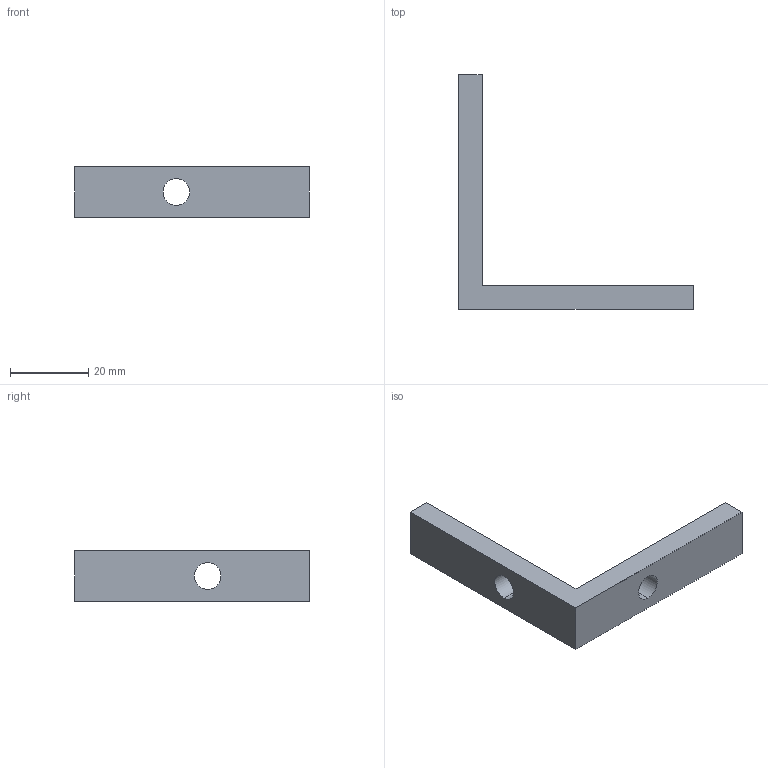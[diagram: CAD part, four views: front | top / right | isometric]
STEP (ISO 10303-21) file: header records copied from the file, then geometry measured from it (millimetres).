
FILE_DESCRIPTION (( 'STEP AP214' ), '1' );
FILE_NAME ('FBRX 13.step', '2017-04-05T08:03:02', ( '' ), ( '' ), 'SwSTEP 2.0', 'SolidWorks 2015', '' );
FILE_SCHEMA (( 'AUTOMOTIVE_DESIGN' ));
Length unit declared in the file: millimetre
Products named in the file (1): FBRX 13
Bounding box: 60 x 60 x 13 mm (x, y, z)
Volume: 8456.2 mm3; surface area: 4599.1 mm2
Topology: 1 solids, 1 shells, 12 faces, 30 edges, 20 vertices
Faces by surface type: plane 8, cylinder 4
Entity records: 448 total; most frequent: DIRECTION 64, CARTESIAN_POINT 63, ORIENTED_EDGE 60, EDGE_CURVE 30, LINE 22, VECTOR 22, AXIS2_PLACEMENT_3D 21, VERTEX_POINT 20
